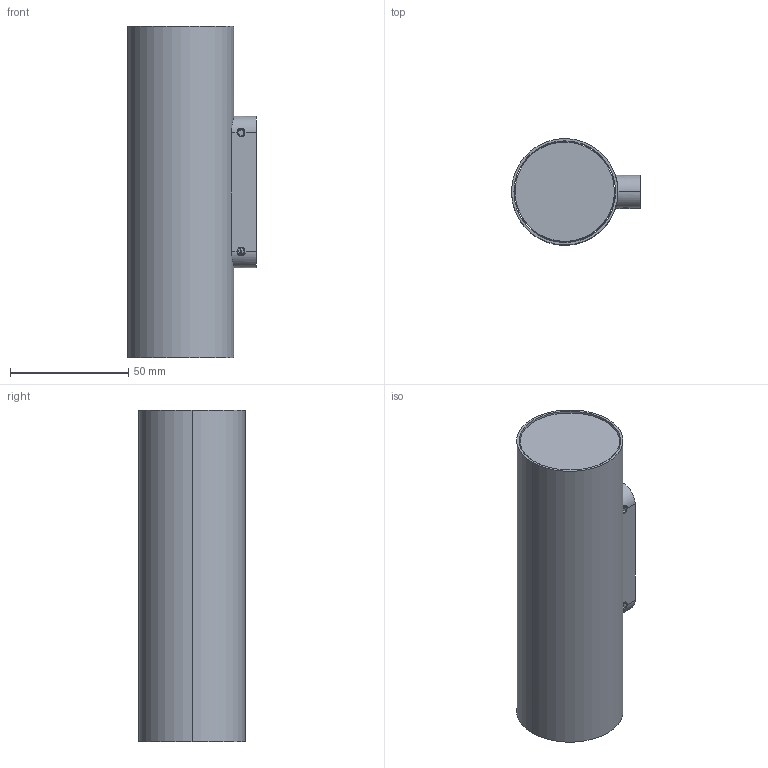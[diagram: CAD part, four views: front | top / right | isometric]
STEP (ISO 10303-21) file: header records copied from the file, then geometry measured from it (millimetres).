
FILE_DESCRIPTION (( 'STEP AP214' ), '1' );
FILE_NAME ('NANOWALL XS skinny.STEP', '2023-10-27T10:39:18', ( '' ), ( '' ), 'SwSTEP 2.0', 'SolidWorks 2023', '' );
FILE_SCHEMA (( 'AUTOMOTIVE_DESIGN' ));
Length unit declared in the file: millimetre
Products named in the file (1): NANOWALL XS skinny
Bounding box: 54.5 x 45 x 140.2 mm (x, y, z)
Surface area: 28405.7 mm2 (no closed solid volume)
Topology: 0 solids, 8 shells, 75 faces, 193 edges, 126 vertices
Faces by surface type: cylinder 42, plane 25, cone 8
Entity records: 3355 total; most frequent: CARTESIAN_POINT 646, DIRECTION 421, ORIENTED_EDGE 342, EDGE_CURVE 193, AXIS2_PLACEMENT_3D 163, VERTEX_POINT 126, VECTOR 95, LINE 95
